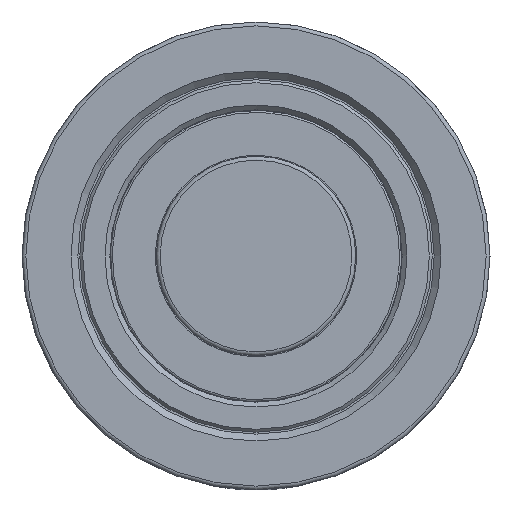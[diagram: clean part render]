
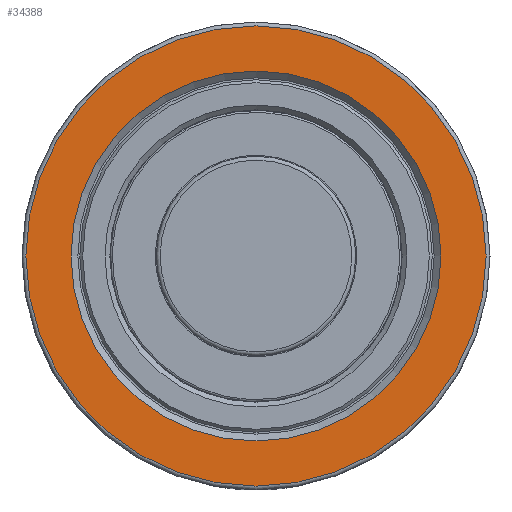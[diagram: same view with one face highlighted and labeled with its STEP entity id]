
A CAD part, left-side view. The second image highlights one B-rep face of the part: STEP entity #34388.
In plain terms, the highlighted planar face has unit normal (-1, 0, 0).
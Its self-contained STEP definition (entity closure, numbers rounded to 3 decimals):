
#9912=FACE_BOUND('',#13083,.T.);
#11203=FACE_OUTER_BOUND('',#13082,.T.);
#13082=EDGE_LOOP('',(#29579));
#13083=EDGE_LOOP('',(#29580));
#13990=CIRCLE('',#35869,23.7);
#13991=CIRCLE('',#35871,19.05);
#16375=VERTEX_POINT('',#65905);
#16376=VERTEX_POINT('',#65909);
#20950=EDGE_CURVE('',#16375,#16375,#13990,.T.);
#20951=EDGE_CURVE('',#16376,#16376,#13991,.T.);
#29579=ORIENTED_EDGE('',*,*,#20950,.F.);
#29580=ORIENTED_EDGE('',*,*,#20951,.F.);
#33013=PLANE('',#35870);
#34388=ADVANCED_FACE('',(#11203,#9912),#33013,.T.);
#35869=AXIS2_PLACEMENT_3D('',#65907,#39327,#39328);
#35870=AXIS2_PLACEMENT_3D('',#65908,#39329,#39330);
#35871=AXIS2_PLACEMENT_3D('',#65910,#39331,#39332);
#39327=DIRECTION('center_axis',(1.,0.,0.));
#39328=DIRECTION('ref_axis',(0.,0.,
-1.));
#39329=DIRECTION('center_axis',(-1.,0.,0.));
#39330=DIRECTION('ref_axis',(0.,-1.,0.));
#39331=DIRECTION('center_axis',(-1.,0.,0.));
#39332=DIRECTION('ref_axis',(0.,0.,
-1.));
#65905=CARTESIAN_POINT('',(-29.512,-23.7,0.));
#65907=CARTESIAN_POINT('Origin',(-29.512,0.,
0.));
#65908=CARTESIAN_POINT('Origin',(-29.512,0.,
24.1));
#65909=CARTESIAN_POINT('',(-29.512,0.,19.05));
#65910=CARTESIAN_POINT('Origin',(-29.512,0.,
0.));
